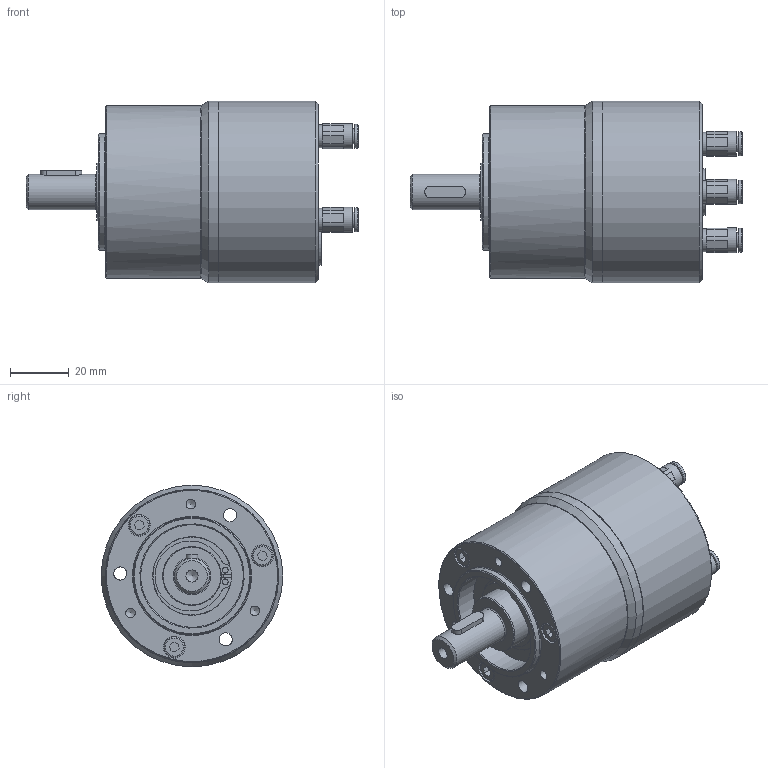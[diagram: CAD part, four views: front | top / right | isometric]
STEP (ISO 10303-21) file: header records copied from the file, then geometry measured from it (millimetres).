
FILE_DESCRIPTION(/* description */ (''),/* implementation_level */ '2;1');
FILE_NAME(/* name */ 'G:\02 CAD Dateien\02 - CAD Schrittmotoren BPS\01 - Standart Produkte\BPS 1620-23\Verkaufsunterlagen\STEP ab JULI 2017\500-16-350 Schrittmotor BPS-1620.stp',/* time_stamp */ '2017-12-19T15:35:45+01:00',/* author */ ('RSc'),/* organization */ (''),/* preprocessor_version */ 'ST-DEVELOPER v16.1',/* originating_system */ 'Autodesk Inventor 2016',/* authorisation */ '');
FILE_SCHEMA (('AUTOMOTIVE_DESIGN { 1 0 10303 214 3 1 1 }'));
Length unit declared in the file: millimetre
Products named in the file (1): Bauteil5
Bounding box: 113.3 x 62 x 62 mm (x, y, z)
Volume: 202333.7 mm3; surface area: 34827.5 mm2
Topology: 12 solids, 18 shells, 341 faces, 834 edges, 543 vertices
Faces by surface type: plane 163, cylinder 65, cone 36, torus 35, bspline 31, sphere 11
Full cylindrical faces by diameter (mm): 2 x2, 3 x1, 3.242 x3, 4 x6, 4.134 x1, 4.5 x6, 5.2 x3, 7 x3, 7.5 x3, 7.8 x3, 8.1 x3, 8.5 x3, 9 x1, 10.5 x1, 12 x1, 16 x1, 19 x1, 20 x2, 25.325 x1, 26.657 x1, 26.857 x1, 35 x1, 35.343 x1, 36.675 x1, 38.675 x1, 40 x1, 42 x1, 59 x1, 62 x2
Entity records: 9717 total; most frequent: CARTESIAN_POINT 2016, DIRECTION 1481, ORIENTED_EDGE 1400, EDGE_CURVE 678, AXIS2_PLACEMENT_3D 594, EDGE_LOOP 495, VERTEX_POINT 485, ADVANCED_FACE 341
